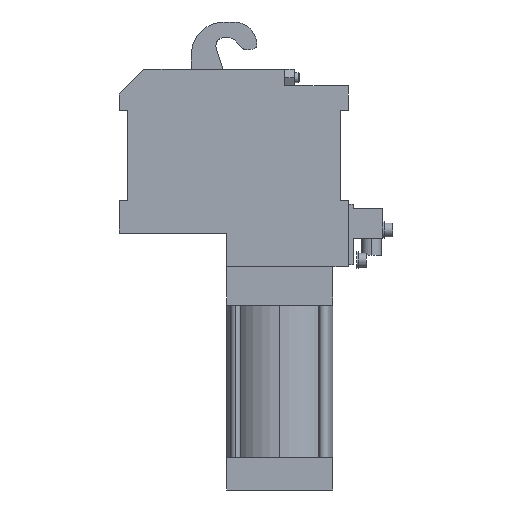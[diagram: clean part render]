
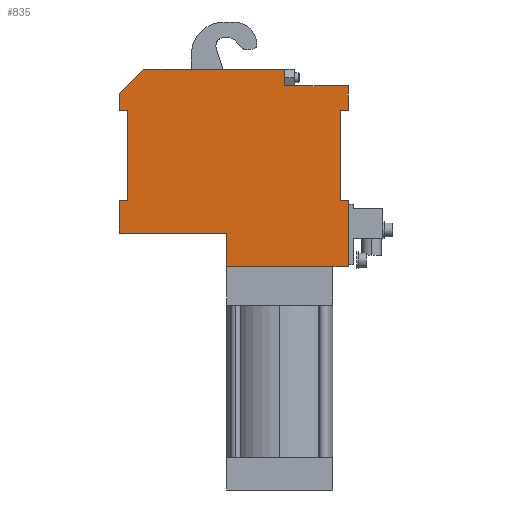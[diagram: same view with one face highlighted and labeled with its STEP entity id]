
A CAD part, front view. The second image highlights one B-rep face of the part: STEP entity #835.
In plain terms, the highlighted planar face has unit normal (0, -1, 0).
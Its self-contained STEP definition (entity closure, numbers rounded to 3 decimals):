
#379=CARTESIAN_POINT('Vertex',(96.,-30.,-132.5)) ;
#395=CARTESIAN_POINT('Vertex',(96.,-30.,-92.)) ;
#398=CARTESIAN_POINT('Line Origine',(96.,-30.,-112.25)) ;
#527=CARTESIAN_POINT('Vertex',(86.5,-30.,-132.5)) ;
#535=CARTESIAN_POINT('Line Origine',(91.25,-30.,-132.5)) ;
#688=CARTESIAN_POINT('Line Origine',(93.5,-30.,-92.)) ;
#692=CARTESIAN_POINT('Vertex',(91.,-30.,-92.)) ;
#707=CARTESIAN_POINT('Axis2P3D Location',(21.5,-30.,-132.5)) ;
#712=CARTESIAN_POINT('Line Origine',(21.5,-30.,-122.25)) ;
#716=CARTESIAN_POINT('Vertex',(21.5,-30.,-112.)) ;
#718=CARTESIAN_POINT('Vertex',(21.5,-30.,-132.5)) ;
#721=CARTESIAN_POINT('Line Origine',(54.,-30.,-132.5)) ;
#726=CARTESIAN_POINT('Line Origine',(91.,-30.,-64.5)) ;
#730=CARTESIAN_POINT('Vertex',(91.,-30.,-37.)) ;
#733=CARTESIAN_POINT('Line Origine',(93.5,-30.,-37.)) ;
#737=CARTESIAN_POINT('Vertex',(96.,-30.,-37.)) ;
#740=CARTESIAN_POINT('Line Origine',(96.,-30.,-29.5)) ;
#744=CARTESIAN_POINT('Vertex',(96.,-30.,-22.)) ;
#747=CARTESIAN_POINT('Line Origine',(76.5,-30.,-22.)) ;
#751=CARTESIAN_POINT('Vertex',(57.,-30.,-22.)) ;
#754=CARTESIAN_POINT('Line Origine',(57.,-30.,-17.)) ;
#758=CARTESIAN_POINT('Vertex',(57.,-30.,-12.)) ;
#761=CARTESIAN_POINT('Line Origine',(14.,-30.,-12.)) ;
#765=CARTESIAN_POINT('Vertex',(-29.,-30.,-12.)) ;
#768=CARTESIAN_POINT('Line Origine',(-36.5,-30.,-19.5)) ;
#772=CARTESIAN_POINT('Vertex',(-44.,-30.,-27.)) ;
#775=CARTESIAN_POINT('Line Origine',(-44.,-30.,-32.)) ;
#779=CARTESIAN_POINT('Vertex',(-44.,-30.,-37.)) ;
#782=CARTESIAN_POINT('Line Origine',(-41.5,-30.,-37.)) ;
#786=CARTESIAN_POINT('Vertex',(-39.,-30.,-37.)) ;
#789=CARTESIAN_POINT('Line Origine',(-39.,-30.,-64.5)) ;
#793=CARTESIAN_POINT('Vertex',(-39.,-30.,-92.)) ;
#796=CARTESIAN_POINT('Line Origine',(-41.5,-30.,-92.)) ;
#800=CARTESIAN_POINT('Vertex',(-44.,-30.,-92.)) ;
#803=CARTESIAN_POINT('Line Origine',(-44.,-30.,-102.)) ;
#807=CARTESIAN_POINT('Vertex',(-44.,-30.,-112.)) ;
#810=CARTESIAN_POINT('Line Origine',(-11.25,-30.,-112.)) ;
#399=DIRECTION('Vector Direction',(0.,0.,-1.)) ;
#536=DIRECTION('Vector Direction',(1.,0.,0.)) ;
#689=DIRECTION('Vector Direction',(1.,0.,0.)) ;
#708=DIRECTION('Axis2P3D Direction',(0.,1.,0.)) ;
#709=DIRECTION('Axis2P3D XDirection',(0.,0.,1.)) ;
#713=DIRECTION('Vector Direction',(0.,0.,1.)) ;
#722=DIRECTION('Vector Direction',(1.,0.,0.)) ;
#727=DIRECTION('Vector Direction',(0.,0.,-1.)) ;
#734=DIRECTION('Vector Direction',(1.,0.,0.)) ;
#741=DIRECTION('Vector Direction',(0.,0.,-1.)) ;
#748=DIRECTION('Vector Direction',(1.,0.,0.)) ;
#755=DIRECTION('Vector Direction',(0.,0.,-1.)) ;
#762=DIRECTION('Vector Direction',(1.,0.,0.)) ;
#769=DIRECTION('Vector Direction',(-0.707,0.,-0.707)) ;
#776=DIRECTION('Vector Direction',(0.,0.,-1.)) ;
#783=DIRECTION('Vector Direction',(1.,0.,0.)) ;
#790=DIRECTION('Vector Direction',(0.,0.,-1.)) ;
#797=DIRECTION('Vector Direction',(1.,0.,0.)) ;
#804=DIRECTION('Vector Direction',(0.,0.,-1.)) ;
#811=DIRECTION('Vector Direction',(1.,0.,0.)) ;
#710=AXIS2_PLACEMENT_3D('Plane Axis2P3D',#707,#708,#709) ;
#816=ORIENTED_EDGE('',*,*,#720,.T.) ;
#817=ORIENTED_EDGE('',*,*,#725,.T.) ;
#818=ORIENTED_EDGE('',*,*,#539,.T.) ;
#819=ORIENTED_EDGE('',*,*,#402,.T.) ;
#820=ORIENTED_EDGE('',*,*,#694,.F.) ;
#821=ORIENTED_EDGE('',*,*,#732,.T.) ;
#822=ORIENTED_EDGE('',*,*,#739,.T.) ;
#823=ORIENTED_EDGE('',*,*,#746,.T.) ;
#824=ORIENTED_EDGE('',*,*,#753,.F.) ;
#825=ORIENTED_EDGE('',*,*,#760,.T.) ;
#826=ORIENTED_EDGE('',*,*,#767,.F.) ;
#827=ORIENTED_EDGE('',*,*,#774,.T.) ;
#828=ORIENTED_EDGE('',*,*,#781,.F.) ;
#829=ORIENTED_EDGE('',*,*,#788,.T.) ;
#830=ORIENTED_EDGE('',*,*,#795,.F.) ;
#831=ORIENTED_EDGE('',*,*,#802,.F.) ;
#832=ORIENTED_EDGE('',*,*,#809,.F.) ;
#833=ORIENTED_EDGE('',*,*,#814,.T.) ;
#400=VECTOR('Line Direction',#399,1.) ;
#537=VECTOR('Line Direction',#536,1.) ;
#690=VECTOR('Line Direction',#689,1.) ;
#714=VECTOR('Line Direction',#713,1.) ;
#723=VECTOR('Line Direction',#722,1.) ;
#728=VECTOR('Line Direction',#727,1.) ;
#735=VECTOR('Line Direction',#734,1.) ;
#742=VECTOR('Line Direction',#741,1.) ;
#749=VECTOR('Line Direction',#748,1.) ;
#756=VECTOR('Line Direction',#755,1.) ;
#763=VECTOR('Line Direction',#762,1.) ;
#770=VECTOR('Line Direction',#769,1.) ;
#777=VECTOR('Line Direction',#776,1.) ;
#784=VECTOR('Line Direction',#783,1.) ;
#791=VECTOR('Line Direction',#790,1.) ;
#798=VECTOR('Line Direction',#797,1.) ;
#805=VECTOR('Line Direction',#804,1.) ;
#812=VECTOR('Line Direction',#811,1.) ;
#835=ADVANCED_FACE('*DIT1',(#834),#711,.F.) ;
#402=EDGE_CURVE('',#380,#396,#401,.F.) ;
#539=EDGE_CURVE('',#528,#380,#538,.T.) ;
#694=EDGE_CURVE('',#693,#396,#691,.T.) ;
#720=EDGE_CURVE('',#717,#719,#715,.F.) ;
#725=EDGE_CURVE('',#719,#528,#724,.T.) ;
#732=EDGE_CURVE('',#693,#731,#729,.F.) ;
#739=EDGE_CURVE('',#731,#738,#736,.T.) ;
#746=EDGE_CURVE('',#738,#745,#743,.F.) ;
#753=EDGE_CURVE('',#752,#745,#750,.T.) ;
#760=EDGE_CURVE('',#752,#759,#757,.F.) ;
#767=EDGE_CURVE('',#766,#759,#764,.T.) ;
#774=EDGE_CURVE('',#766,#773,#771,.T.) ;
#781=EDGE_CURVE('',#780,#773,#778,.F.) ;
#788=EDGE_CURVE('',#780,#787,#785,.T.) ;
#795=EDGE_CURVE('',#794,#787,#792,.F.) ;
#802=EDGE_CURVE('',#801,#794,#799,.T.) ;
#809=EDGE_CURVE('',#808,#801,#806,.F.) ;
#814=EDGE_CURVE('',#808,#717,#813,.T.) ;
#815=EDGE_LOOP('',(#816,#817,#818,#819,#820,#821,#822,#823,#824,#825,#826,#827,#828,#829,#830,#831,#832,#833)) ;
#834=FACE_OUTER_BOUND('',#815,.T.) ;
#401=LINE('Line',#398,#400) ;
#538=LINE('Line',#535,#537) ;
#691=LINE('Line',#688,#690) ;
#715=LINE('Line',#712,#714) ;
#724=LINE('Line',#721,#723) ;
#729=LINE('Line',#726,#728) ;
#736=LINE('Line',#733,#735) ;
#743=LINE('Line',#740,#742) ;
#750=LINE('Line',#747,#749) ;
#757=LINE('Line',#754,#756) ;
#764=LINE('Line',#761,#763) ;
#771=LINE('Line',#768,#770) ;
#778=LINE('Line',#775,#777) ;
#785=LINE('Line',#782,#784) ;
#792=LINE('Line',#789,#791) ;
#799=LINE('Line',#796,#798) ;
#806=LINE('Line',#803,#805) ;
#813=LINE('Line',#810,#812) ;
#711=PLANE('Plane',#710) ;
#380=VERTEX_POINT('',#379) ;
#396=VERTEX_POINT('',#395) ;
#528=VERTEX_POINT('',#527) ;
#693=VERTEX_POINT('',#692) ;
#717=VERTEX_POINT('',#716) ;
#719=VERTEX_POINT('',#718) ;
#731=VERTEX_POINT('',#730) ;
#738=VERTEX_POINT('',#737) ;
#745=VERTEX_POINT('',#744) ;
#752=VERTEX_POINT('',#751) ;
#759=VERTEX_POINT('',#758) ;
#766=VERTEX_POINT('',#765) ;
#773=VERTEX_POINT('',#772) ;
#780=VERTEX_POINT('',#779) ;
#787=VERTEX_POINT('',#786) ;
#794=VERTEX_POINT('',#793) ;
#801=VERTEX_POINT('',#800) ;
#808=VERTEX_POINT('',#807) ;
